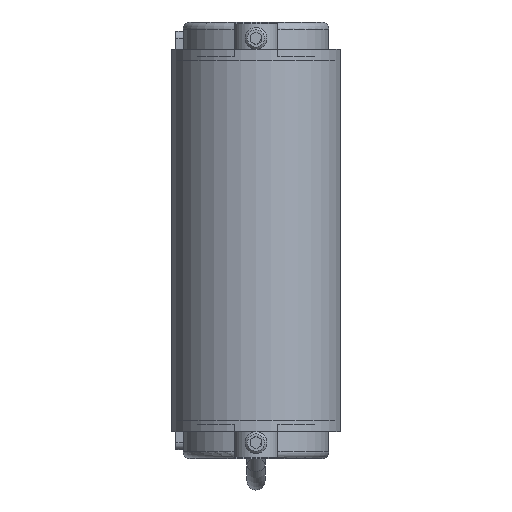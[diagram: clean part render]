
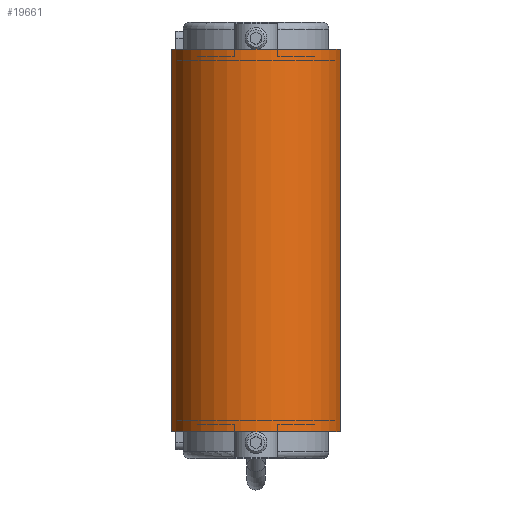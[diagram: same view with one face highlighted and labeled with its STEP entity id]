
A CAD part, front view. The second image highlights one B-rep face of the part: STEP entity #19661.
In plain terms, the highlighted cylindrical face has radius 23.3 mm (diameter 46.6 mm), a partial arc.
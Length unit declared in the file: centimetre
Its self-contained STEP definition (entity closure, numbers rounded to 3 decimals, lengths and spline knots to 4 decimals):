
#559=CYLINDRICAL_SURFACE('',#21031,2.33);
#1219=CIRCLE('',#21026,2.33);
#1222=CIRCLE('',#21032,2.33);
#2052=FACE_OUTER_BOUND('',#3119,.T.);
#3119=EDGE_LOOP('',(#13352,#13353,#13354,#13355));
#4467=LINE('',#29038,#6048);
#4468=LINE('',#29042,#6049);
#6048=VECTOR('',#23771,1.);
#6049=VECTOR('',#23776,1.);
#7807=VERTEX_POINT('',#29021);
#7808=VERTEX_POINT('',#29022);
#7813=VERTEX_POINT('',#29036);
#7814=VERTEX_POINT('',#29040);
#9955=EDGE_CURVE('',#7807,#7808,#1219,.T.);
#9963=EDGE_CURVE('',#7813,#7808,#4467,.T.);
#9964=EDGE_CURVE('',#7813,#7814,#1222,.T.);
#9965=EDGE_CURVE('',#7807,#7814,#4468,.T.);
#13352=ORIENTED_EDGE('',*,*,#9964,.T.);
#13353=ORIENTED_EDGE('',*,*,#9965,.F.);
#13354=ORIENTED_EDGE('',*,*,#9955,.T.);
#13355=ORIENTED_EDGE('',*,*,#9963,.F.);
#19661=ADVANCED_FACE('',(#2052),#559,.T.);
#21026=AXIS2_PLACEMENT_3D('',#29023,#23756,#23757);
#21031=AXIS2_PLACEMENT_3D('',#29039,#23772,#23773);
#21032=AXIS2_PLACEMENT_3D('',#29041,#23774,#23775);
#23756=DIRECTION('center_axis',(0.,0.,
-1.));
#23757=DIRECTION('ref_axis',(-1.,0.,0.));
#23771=DIRECTION('',(0.,0.,1.));
#23772=DIRECTION('center_axis',(0.,0.,
-1.));
#23773=DIRECTION('ref_axis',(-1.,0.,0.));
#23774=DIRECTION('center_axis',(0.,0.,
1.));
#23775=DIRECTION('ref_axis',(-1.,0.,0.));
#23776=DIRECTION('',(0.,0.,-1.));
#29021=CARTESIAN_POINT('',(2.33,-107.,5.25));
#29022=CARTESIAN_POINT('',(-2.33,-107.,5.25));
#29023=CARTESIAN_POINT('Origin',(0.,-107.,5.25));
#29036=CARTESIAN_POINT('',(-2.33,-107.,-5.25));
#29038=CARTESIAN_POINT('',(-2.33,-107.,0.));
#29039=CARTESIAN_POINT('Origin',(0.,-107.,0.));
#29040=CARTESIAN_POINT('',(2.33,-107.,-5.25));
#29041=CARTESIAN_POINT('Origin',(0.,-107.,-5.25));
#29042=CARTESIAN_POINT('',(2.33,-107.,0.));
